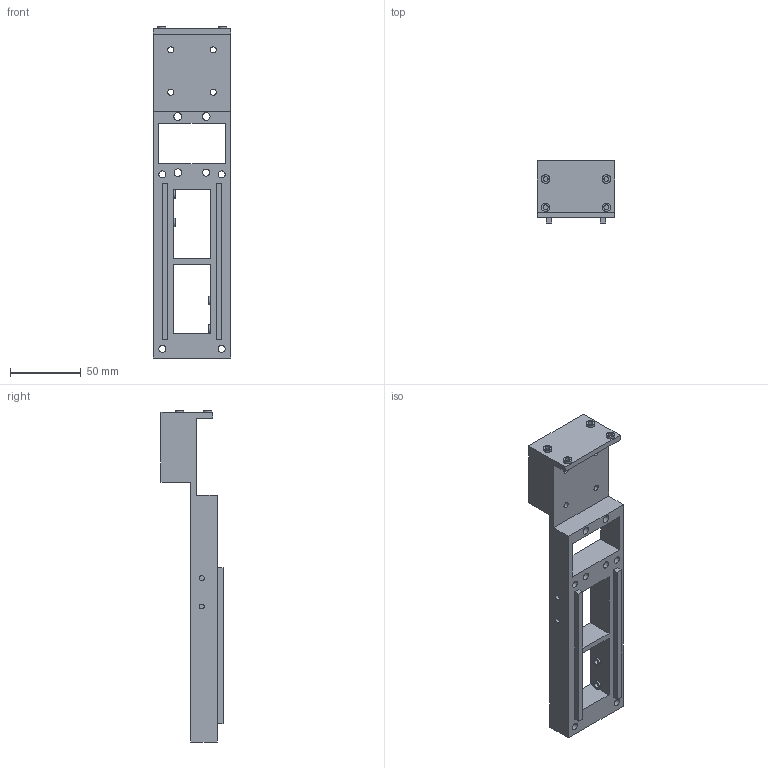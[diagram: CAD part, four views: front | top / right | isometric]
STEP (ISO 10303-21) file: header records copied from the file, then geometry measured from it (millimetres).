
FILE_DESCRIPTION(/* description */ ('STEP AP242 Edition 2','CAx-IF Rec.Pracs.---Representation and Presentation of Product Manufacturing Information (PMI)---4.0---2014-10-13','CAx-IF Rec.Pracs.---3D Tessellated Geometry---0.4---2014-09-14','2;1','CAx-IF Rec.Pracs.---User Defined Attributes---1.5---2016-08-15'),/* implementation_level */ '2;1');
FILE_NAME(/* name */ 'X-Axis Back Bracket',/* time_stamp */ '2025-11-29T19:52:45Z',/* author */ (''),/* organization */ (''),/* preprocessor_version */ 'ST-DEVELOPER v20',/* originating_system */ 'ONSHAPE BY PTC INC, 1.207',/* authorisation */ ' ');
FILE_SCHEMA (('AP242_MANAGED_MODEL_BASED_3D_ENGINEERING_MIM_LF { 1 0 10303 442 3 1 4 }'));
Length unit declared in the file: metre
Products named in the file (1): Part 1
Bounding box: 54.94 x 43.84 x 234.73 mm (x, y, z)
Volume: 177093.1 mm3; surface area: 47537.9 mm2
Topology: 1 solids, 1 shells, 80 faces, 194 edges, 132 vertices
Faces by surface type: plane 48, cylinder 32
Full cylindrical faces by diameter (mm): 3.5 x8, 4.2 x4, 5 x5, 5.293 x1, 5.433 x1, 5.502 x1, 6 x8, 7.5 x4
Entity records: 2240 total; most frequent: DIRECTION 380, CARTESIAN_POINT 359, ORIENTED_EDGE 308, EDGE_LOOP 170, FACE_BOUND 170, EDGE_CURVE 154, AXIS2_PLACEMENT_3D 145, VERTEX_POINT 124
